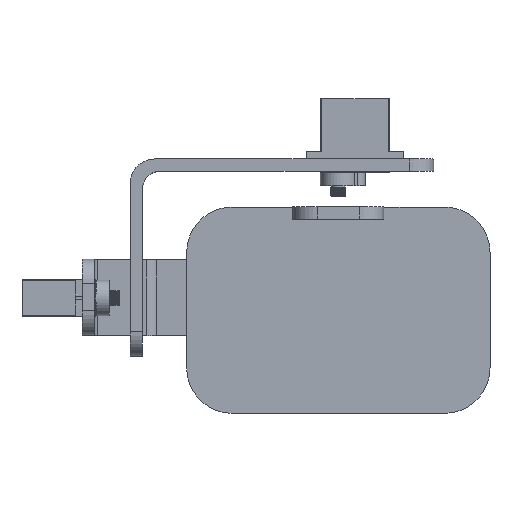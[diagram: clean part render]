
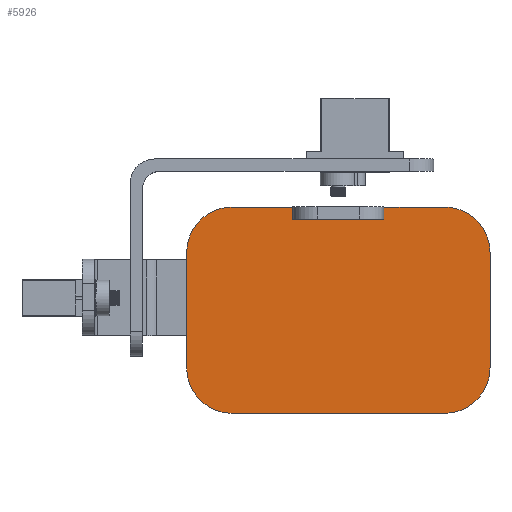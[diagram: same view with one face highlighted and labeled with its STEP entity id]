
A CAD part, top view. The second image highlights one B-rep face of the part: STEP entity #5926.
In plain terms, the highlighted planar face has unit normal (0, 0, 1).
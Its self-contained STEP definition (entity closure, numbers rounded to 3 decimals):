
#168=PLANE('',#6703);
#536=LINE('',#10775,#916);
#540=LINE('',#10787,#920);
#544=LINE('',#10796,#924);
#546=LINE('',#10803,#926);
#547=LINE('',#10805,#927);
#548=LINE('',#10806,#928);
#549=LINE('',#10808,#929);
#550=LINE('',#10812,#930);
#916=VECTOR('',#8399,10.);
#920=VECTOR('',#8407,10.);
#924=VECTOR('',#8417,10.);
#926=VECTOR('',#8425,10.);
#927=VECTOR('',#8426,10.);
#928=VECTOR('',#8427,10.);
#929=VECTOR('',#8428,10.);
#930=VECTOR('',#8431,10.);
#1446=FACE_OUTER_BOUND('',#1787,.T.);
#1787=EDGE_LOOP('',(#5159,#5160,#5161,#5162,#5163,#5164,#5165,#5166,#5167,
#5168,#5169,#5170));
#2160=CIRCLE('',#6699,15.);
#2161=CIRCLE('',#6702,15.);
#2162=CIRCLE('',#6704,15.);
#2163=CIRCLE('',#6705,15.);
#2775=VERTEX_POINT('',#10772);
#2776=VERTEX_POINT('',#10774);
#2781=VERTEX_POINT('',#10784);
#2782=VERTEX_POINT('',#10786);
#2783=VERTEX_POINT('',#10790);
#2784=VERTEX_POINT('',#10794);
#2785=VERTEX_POINT('',#10798);
#2786=VERTEX_POINT('',#10802);
#2787=VERTEX_POINT('',#10804);
#2788=VERTEX_POINT('',#10807);
#2789=VERTEX_POINT('',#10809);
#2790=VERTEX_POINT('',#10811);
#3576=EDGE_CURVE('',#2776,#2775,#536,.T.);
#3582=EDGE_CURVE('',#2782,#2781,#540,.T.);
#3585=EDGE_CURVE('',#2775,#2783,#2160,.T.);
#3587=EDGE_CURVE('',#2783,#2784,#544,.T.);
#3589=EDGE_CURVE('',#2784,#2785,#2161,.T.);
#3590=EDGE_CURVE('',#2786,#2781,#546,.T.);
#3591=EDGE_CURVE('',#2787,#2786,#547,.T.);
#3592=EDGE_CURVE('',#2776,#2787,#548,.T.);
#3593=EDGE_CURVE('',#2785,#2788,#549,.T.);
#3594=EDGE_CURVE('',#2788,#2789,#2162,.T.);
#3595=EDGE_CURVE('',#2789,#2790,#550,.T.);
#3596=EDGE_CURVE('',#2790,#2782,#2163,.T.);
#5159=ORIENTED_EDGE('',*,*,#3590,.F.);
#5160=ORIENTED_EDGE('',*,*,#3591,.F.);
#5161=ORIENTED_EDGE('',*,*,#3592,.F.);
#5162=ORIENTED_EDGE('',*,*,#3576,.T.);
#5163=ORIENTED_EDGE('',*,*,#3585,.T.);
#5164=ORIENTED_EDGE('',*,*,#3587,.T.);
#5165=ORIENTED_EDGE('',*,*,#3589,.T.);
#5166=ORIENTED_EDGE('',*,*,#3593,.T.);
#5167=ORIENTED_EDGE('',*,*,#3594,.T.);
#5168=ORIENTED_EDGE('',*,*,#3595,.T.);
#5169=ORIENTED_EDGE('',*,*,#3596,.T.);
#5170=ORIENTED_EDGE('',*,*,#3582,.T.);
#5926=ADVANCED_FACE('',(#1446),#168,.T.);
#6699=AXIS2_PLACEMENT_3D('',#10792,#8412,#8413);
#6702=AXIS2_PLACEMENT_3D('',#10800,#8421,#8422);
#6703=AXIS2_PLACEMENT_3D('',#10801,#8423,#8424);
#6704=AXIS2_PLACEMENT_3D('',#10810,#8429,#8430);
#6705=AXIS2_PLACEMENT_3D('',#10813,#8432,#8433);
#8399=DIRECTION('',(-1.,0.,0.));
#8407=DIRECTION('',(-1.,0.,0.));
#8412=DIRECTION('center_axis',(0.,0.,1.));
#8413=DIRECTION('ref_axis',(0.,1.,0.));
#8417=DIRECTION('',(0.,-1.,0.));
#8421=DIRECTION('center_axis',(0.,0.,1.));
#8422=DIRECTION('ref_axis',(-1.,0.,0.));
#8423=DIRECTION('center_axis',(0.,0.,1.));
#8424=DIRECTION('ref_axis',(1.,0.,0.));
#8425=DIRECTION('',(0.,1.,0.));
#8426=DIRECTION('',(1.,0.,0.));
#8427=DIRECTION('',(0.,-1.,0.));
#8428=DIRECTION('',(1.,0.,0.));
#8429=DIRECTION('center_axis',(0.,0.,1.));
#8430=DIRECTION('ref_axis',(0.,-1.,0.));
#8431=DIRECTION('',(0.,1.,0.));
#8432=DIRECTION('center_axis',(0.,0.,1.));
#8433=DIRECTION('ref_axis',(1.,0.,0.));
#10772=CARTESIAN_POINT('',(15.,0.,5.));
#10774=CARTESIAN_POINT('',(35.,0.,5.));
#10775=CARTESIAN_POINT('',(67.5,0.,5.));
#10784=CARTESIAN_POINT('',(65.,0.,5.));
#10786=CARTESIAN_POINT('',(85.,0.,5.));
#10787=CARTESIAN_POINT('',(67.5,0.,5.));
#10790=CARTESIAN_POINT('',(0.,-15.,5.));
#10792=CARTESIAN_POINT('Origin',(15.,-15.,5.));
#10794=CARTESIAN_POINT('',(0.,-53.,5.));
#10796=CARTESIAN_POINT('',(0.,-24.5,5.));
#10798=CARTESIAN_POINT('',(15.,-68.,5.));
#10800=CARTESIAN_POINT('Origin',(15.,-53.,5.));
#10801=CARTESIAN_POINT('Origin',(50.,-34.,5.));
#10802=CARTESIAN_POINT('',(65.,-4.,5.));
#10803=CARTESIAN_POINT('',(65.,-19.5,5.));
#10804=CARTESIAN_POINT('',(35.,-4.,5.));
#10805=CARTESIAN_POINT('',(50.,-4.,5.));
#10806=CARTESIAN_POINT('',(35.,-17.,5.));
#10807=CARTESIAN_POINT('',(85.,-68.,5.));
#10808=CARTESIAN_POINT('',(32.5,-68.,5.));
#10809=CARTESIAN_POINT('',(100.,-53.,5.));
#10810=CARTESIAN_POINT('Origin',(85.,-53.,5.));
#10811=CARTESIAN_POINT('',(100.,-15.,5.));
#10812=CARTESIAN_POINT('',(100.,-43.5,5.));
#10813=CARTESIAN_POINT('Origin',(85.,-15.,5.));
